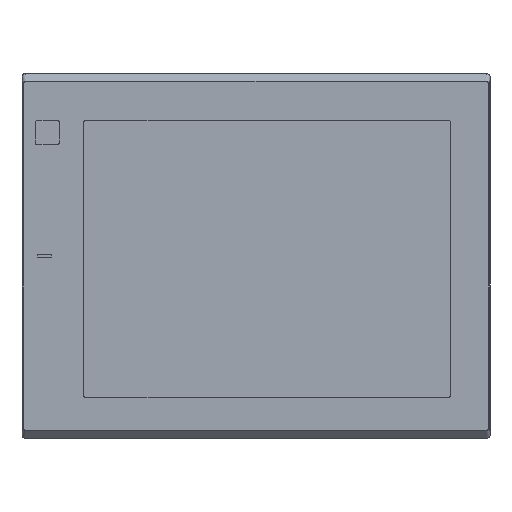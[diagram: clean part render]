
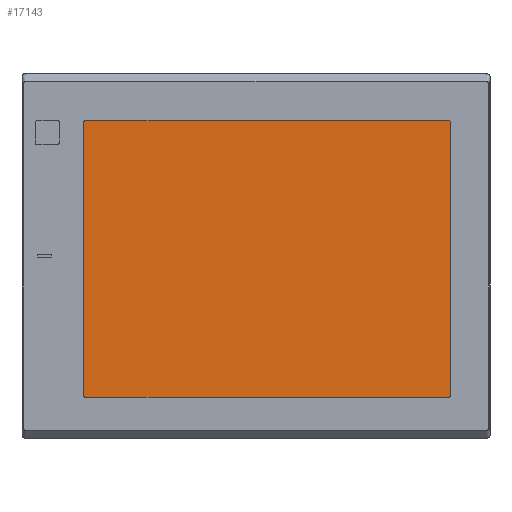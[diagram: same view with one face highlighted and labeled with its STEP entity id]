
A CAD part, top view. The second image highlights one B-rep face of the part: STEP entity #17143.
In plain terms, the highlighted planar face has unit normal (0, 0, 1).
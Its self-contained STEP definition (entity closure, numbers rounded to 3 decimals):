
#6696=CARTESIAN_POINT('',(130.5,90.25,-0.1));
#6697=DIRECTION('',(0.,0.,1.));
#6698=DIRECTION('',(1.,0.,0.));
#6699=AXIS2_PLACEMENT_3D('',#6696,#6697,#6698);
#6701=DIRECTION('',(0.,1.,0.));
#6702=VECTOR('',#6701,184.5);
#6703=CARTESIAN_POINT('',(131.5,-94.25,-0.1));
#6704=LINE('',#6703,#6702);
#6705=CARTESIAN_POINT('',(130.5,-94.25,-0.1));
#6706=DIRECTION('',(0.,0.,1.));
#6707=DIRECTION('',(0.,-1.,0.));
#6708=AXIS2_PLACEMENT_3D('',#6705,#6706,#6707);
#6710=CARTESIAN_POINT('',(-115.5,-94.25,-0.1));
#6711=DIRECTION('',(0.,0.,1.));
#6712=DIRECTION('',(-1.,0.,0.));
#6713=AXIS2_PLACEMENT_3D('',#6710,#6711,#6712);
#6715=CARTESIAN_POINT('',(-115.5,90.25,-0.1));
#6716=DIRECTION('',(0.,0.,1.));
#6717=DIRECTION('',(0.,1.,0.));
#6718=AXIS2_PLACEMENT_3D('',#6715,#6716,#6717);
#6728=DIRECTION('',(-1.,0.,0.));
#6729=VECTOR('',#6728,246.);
#6730=CARTESIAN_POINT('',(130.5,91.25,-0.1));
#6731=LINE('',#6730,#6729);
#6744=DIRECTION('',(0.,-1.,0.));
#6745=VECTOR('',#6744,184.5);
#6746=CARTESIAN_POINT('',(-116.5,90.25,-0.1));
#6747=LINE('',#6746,#6745);
#6760=DIRECTION('',(1.,0.,0.));
#6761=VECTOR('',#6760,246.);
#6762=CARTESIAN_POINT('',(-115.5,-95.25,-0.1));
#6763=LINE('',#6762,#6761);
#7538=CARTESIAN_POINT('',(131.5,-94.25,-0.1));
#7539=CARTESIAN_POINT('',(131.5,90.25,-0.1));
#7540=VERTEX_POINT('',#7538);
#7541=VERTEX_POINT('',#7539);
#7542=CARTESIAN_POINT('',(130.5,91.25,-0.1));
#7543=VERTEX_POINT('',#7542);
#7544=CARTESIAN_POINT('',(130.5,-95.25,-0.1));
#7545=VERTEX_POINT('',#7544);
#7546=CARTESIAN_POINT('',(-115.5,-95.25,-0.1));
#7547=VERTEX_POINT('',#7546);
#7548=CARTESIAN_POINT('',(-116.5,-94.25,-0.1));
#7549=VERTEX_POINT('',#7548);
#7550=CARTESIAN_POINT('',(-116.5,90.25,-0.1));
#7551=VERTEX_POINT('',#7550);
#7552=CARTESIAN_POINT('',(-115.5,91.25,-0.1));
#7553=VERTEX_POINT('',#7552);
#17121=CARTESIAN_POINT('',(7.5,-2.,-0.1));
#17122=DIRECTION('',(0.,0.,1.));
#17123=DIRECTION('',(1.,0.,0.));
#17124=AXIS2_PLACEMENT_3D('',#17121,#17122,#17123);
#17125=PLANE('',#17124);
#17127=ORIENTED_EDGE('',*,*,#17126,.F.);
#17128=ORIENTED_EDGE('',*,*,#17111,.F.);
#17130=ORIENTED_EDGE('',*,*,#17129,.F.);
#17132=ORIENTED_EDGE('',*,*,#17131,.F.);
#17134=ORIENTED_EDGE('',*,*,#17133,.F.);
#17136=ORIENTED_EDGE('',*,*,#17135,.F.);
#17138=ORIENTED_EDGE('',*,*,#17137,.F.);
#17140=ORIENTED_EDGE('',*,*,#17139,.F.);
#17141=EDGE_LOOP('',(#17127,#17128,#17130,#17132,#17134,#17136,#17138,#17140));
#17142=FACE_OUTER_BOUND('',#17141,.F.);
#17143=ADVANCED_FACE('',(#17142),#17125,.T.);
#6700=CIRCLE('',#6699,1.);
#6709=CIRCLE('',#6708,1.);
#6714=CIRCLE('',#6713,1.);
#6719=CIRCLE('',#6718,1.);
#17111=EDGE_CURVE('',#7540,#7541,#6704,.T.);
#17126=EDGE_CURVE('',#7541,#7543,#6700,.T.);
#17129=EDGE_CURVE('',#7545,#7540,#6709,.T.);
#17131=EDGE_CURVE('',#7547,#7545,#6763,.T.);
#17133=EDGE_CURVE('',#7549,#7547,#6714,.T.);
#17135=EDGE_CURVE('',#7551,#7549,#6747,.T.);
#17137=EDGE_CURVE('',#7553,#7551,#6719,.T.);
#17139=EDGE_CURVE('',#7543,#7553,#6731,.T.);
